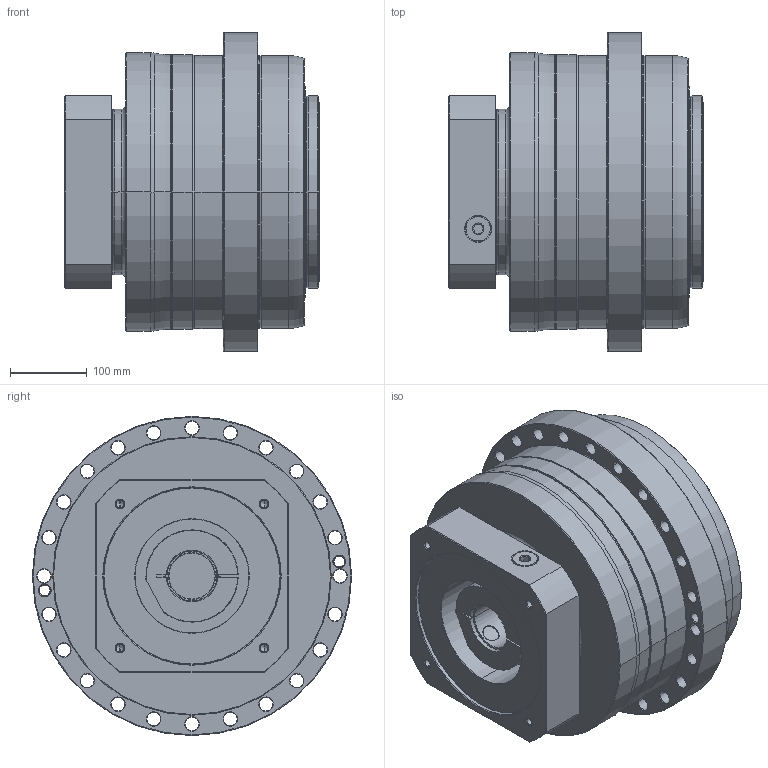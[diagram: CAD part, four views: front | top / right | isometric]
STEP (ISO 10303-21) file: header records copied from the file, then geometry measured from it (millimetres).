
FILE_DESCRIPTION((''),'2;1');
FILE_NAME('AP355_1ST_60-O0409D50102_ASM','2020-12-23T',('d01226'),(''),'PRO/ENGINEER BY PARAMETRIC TECHNOLOGY CORPORATION, 2015240','PRO/ENGINEER BY PARAMETRIC TECHNOLOGY CORPORATION, 2015240','');
FILE_SCHEMA(('CONFIG_CONTROL_DESIGN'));
Length unit declared in the file: millimetre
Products named in the file (9): P0276101003; P0357101103; P1338110101; P0503C00016; P0942103001; P1222100001; O0409D50102; 21711426021; AP355_1ST_60-O0409D50102_ASM
Assembly tree (8 placements, depth 2):
  AP355_1ST_60-O0409D50102_ASM
    P0276101003
    P0357101103
    P1338110101
    P0503C00016
    P0942103001
    P1222100001
    O0409D50102
    21711426021
Bounding box: 331.5 x 415 x 415 mm (x, y, z)
Volume: 22868836.8 mm3; surface area: 1438917.3 mm2
Topology: 9 solids, 34 shells, 612 faces, 1423 edges, 880 vertices
Faces by surface type: cylinder 256, cone 170, plane 106, torus 68, bspline 12
Entity records: 22368 total; most frequent: CARTESIAN_POINT 7597, DIRECTION 3395, ORIENTED_EDGE 2730, AXIS2_PLACEMENT_3D 1452, EDGE_CURVE 1415, VERTEX_POINT 880, CIRCLE 825, EDGE_LOOP 769
